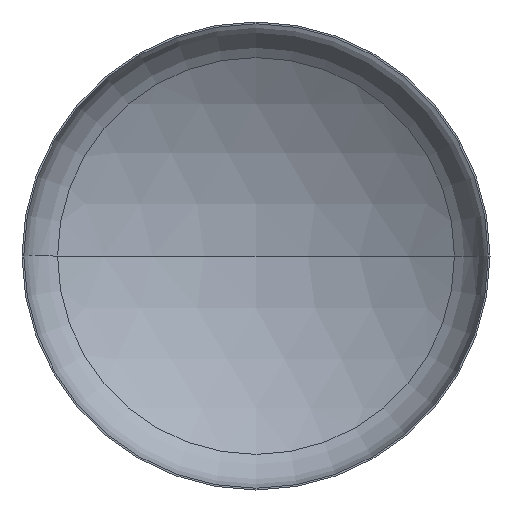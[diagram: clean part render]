
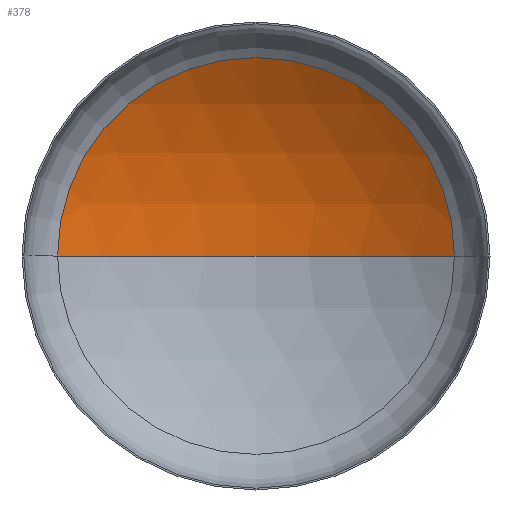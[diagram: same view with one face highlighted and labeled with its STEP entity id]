
A CAD part, front view. The second image highlights one B-rep face of the part: STEP entity #378.
In plain terms, the highlighted spherical face has radius 6400 mm.
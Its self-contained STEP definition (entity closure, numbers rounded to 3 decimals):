
#2 = CARTESIAN_POINT ( 'NONE',  ( 0., -4294.21, 0. ) ) ;
#27 = VERTEX_POINT ( 'NONE', #285 ) ;
#47 = ORIENTED_EDGE ( 'NONE', *, *, #201, .T. ) ;
#54 = ORIENTED_EDGE ( 'NONE', *, *, #203, .T. ) ;
#56 = SPHERICAL_SURFACE ( 'NONE', #370, 6400. ) ;
#58 = DIRECTION ( 'NONE',  ( 0., 0., -1. ) ) ;
#63 = VERTEX_POINT ( 'NONE', #234 ) ;
#82 = EDGE_LOOP ( 'NONE', ( #86, #54, #47 ) ) ;
#86 = ORIENTED_EDGE ( 'NONE', *, *, #204, .F. ) ;
#87 = VERTEX_POINT ( 'NONE', #240 ) ;
#120 = CARTESIAN_POINT ( 'NONE',  ( 0., -4294.21, 0. ) ) ;
#128 = AXIS2_PLACEMENT_3D ( 'NONE', #300, #133, #343 ) ;
#133 = DIRECTION ( 'NONE',  ( 0., 0., 1. ) ) ;
#134 = AXIS2_PLACEMENT_3D ( 'NONE', #2, #58, #168 ) ;
#135 = AXIS2_PLACEMENT_3D ( 'NONE', #231, #230, #303 ) ;
#157 = CIRCLE ( 'NONE', #128, 6400. ) ;
#168 = DIRECTION ( 'NONE',  ( -1., 0., 0. ) ) ;
#201 = EDGE_CURVE ( 'NONE', #27, #63, #302, .T. ) ;
#203 = EDGE_CURVE ( 'NONE', #87, #27, #245, .T. ) ;
#204 = EDGE_CURVE ( 'NONE', #87, #63, #157, .T. ) ;
#213 = DIRECTION ( 'NONE',  ( -1., 0., 0. ) ) ;
#230 = DIRECTION ( 'NONE',  ( 0., -1., 0. ) ) ;
#231 = CARTESIAN_POINT ( 'NONE',  ( 0., 1133.052, 0. ) ) ;
#234 = CARTESIAN_POINT ( 'NONE',  ( -3391.876, 1133.052, 0. ) ) ;
#240 = CARTESIAN_POINT ( 'NONE',  ( 0., 2105.79, 0. ) ) ;
#245 = CIRCLE ( 'NONE', #134, 6400. ) ;
#285 = CARTESIAN_POINT ( 'NONE',  ( 3391.876, 1133.052, 0. ) ) ;
#300 = CARTESIAN_POINT ( 'NONE',  ( 0., -4294.21, 0. ) ) ;
#302 = CIRCLE ( 'NONE', #135, 3391.876 ) ;
#303 = DIRECTION ( 'NONE',  ( 1., 0., 0. ) ) ;
#322 = DIRECTION ( 'NONE',  ( 0., 0., -1. ) ) ;
#343 = DIRECTION ( 'NONE',  ( 1., 0., 0. ) ) ;
#370 = AXIS2_PLACEMENT_3D ( 'NONE', #120, #322, #213 ) ;
#378 = ADVANCED_FACE ( 'NONE', ( #379 ), #56, .F. ) ;
#379 = FACE_OUTER_BOUND ( 'NONE', #82, .T. ) ;
